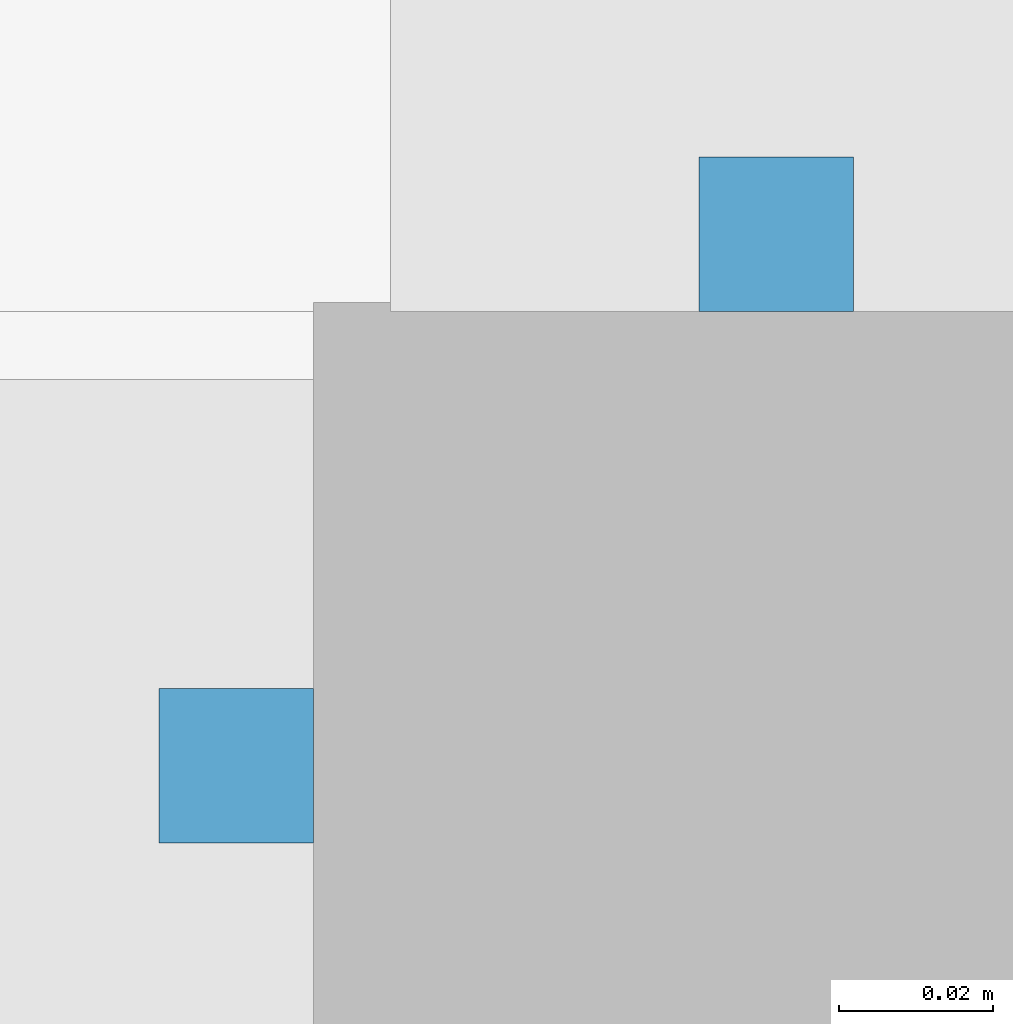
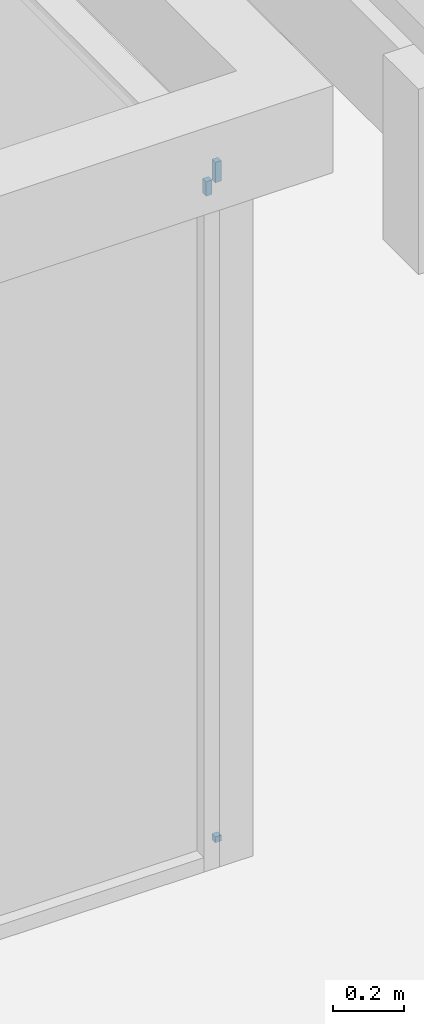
# One storey, part 112 of 153: 3 plates, 2 elements without a shape of their own.
"""IFC4 building model written with IfcOpenShell, lengths in metres."""

from ifc_helpers import new_model, entity, si_unit, converted_unit, derived_unit, direction, frame, origin, place, context, subcontext, project, spatial, indexed_curve, outline, extrude, source, transform, mapped, material, type_object, type_shapes, element, aggregate, save


model = new_model("IFC4")

# Units and contexts
model_context = context("Model", 3, precision=1e-05, world=origin(), true_north=direction((6.123031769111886e-17, 1.0)))
body_context = subcontext(model_context, "Body", "Model", "MODEL_VIEW")
ifc_project = project(units=[si_unit("LENGTHUNIT", "METRE"), si_unit("AREAUNIT", "SQUARE_METRE"), si_unit("VOLUMEUNIT", "CUBIC_METRE"), converted_unit("PLANEANGLEUNIT", "DEGREE", entity("IfcRatioMeasure", 0.017453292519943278), si_unit("PLANEANGLEUNIT", "RADIAN"), dimensions=[0, 0, 0, 0, 0, 0, 0]), si_unit("MASSUNIT", "GRAM", prefix="KILO"), derived_unit("MASSDENSITYUNIT", [(si_unit("MASSUNIT", "GRAM", prefix="KILO"), 1), (si_unit("LENGTHUNIT", "METRE"), -3)]), derived_unit("MOMENTOFINERTIAUNIT", [(si_unit("LENGTHUNIT", "METRE"), 4)]), si_unit("TIMEUNIT", "SECOND"), si_unit("FREQUENCYUNIT", "HERTZ"), si_unit("THERMODYNAMICTEMPERATUREUNIT", "DEGREE_CELSIUS"), derived_unit("THERMALTRANSMITTANCEUNIT", [(si_unit("MASSUNIT", "GRAM", prefix="KILO"), 1), (si_unit("THERMODYNAMICTEMPERATUREUNIT", "KELVIN"), -1), (si_unit("TIMEUNIT", "SECOND"), -3)]), derived_unit("VOLUMETRICFLOWRATEUNIT", [(si_unit("LENGTHUNIT", "METRE"), 3), (si_unit("TIMEUNIT", "SECOND"), -1)]), derived_unit("MASSFLOWRATEUNIT", [(si_unit("MASSUNIT", "GRAM", prefix="KILO"), 1), (si_unit("TIMEUNIT", "SECOND"), -1)]), derived_unit("ROTATIONALFREQUENCYUNIT", [(si_unit("TIMEUNIT", "SECOND"), -1)]), si_unit("ELECTRICCURRENTUNIT", "AMPERE"), si_unit("ELECTRICVOLTAGEUNIT", "VOLT"), si_unit("POWERUNIT", "WATT"), si_unit("FORCEUNIT", "NEWTON", prefix="KILO"), si_unit("ILLUMINANCEUNIT", "LUX"), si_unit("LUMINOUSFLUXUNIT", "LUMEN"), si_unit("LUMINOUSINTENSITYUNIT", "CANDELA"), derived_unit("USERDEFINED", [(si_unit("MASSUNIT", "GRAM", prefix="KILO"), -1), (si_unit("LENGTHUNIT", "METRE"), -2), (si_unit("TIMEUNIT", "SECOND"), 3), (si_unit("LUMINOUSFLUXUNIT", "LUMEN"), 1)]), derived_unit("SOUNDPOWERUNIT", [(si_unit("MASSUNIT", "GRAM", prefix="KILO"), 1), (si_unit("LENGTHUNIT", "METRE"), 2), (si_unit("TIMEUNIT", "SECOND"), -3)]), derived_unit("SOUNDPRESSUREUNIT", [(si_unit("MASSUNIT", "GRAM", prefix="KILO"), 1), (si_unit("LENGTHUNIT", "METRE"), -1), (si_unit("TIMEUNIT", "SECOND"), -2)]), derived_unit("LINEARVELOCITYUNIT", [(si_unit("LENGTHUNIT", "METRE"), 1), (si_unit("TIMEUNIT", "SECOND"), -1)]), si_unit("PRESSUREUNIT", "PASCAL"), derived_unit("USERDEFINED", [(si_unit("LENGTHUNIT", "METRE"), -2), (si_unit("MASSUNIT", "GRAM", prefix="KILO"), 1), (si_unit("TIMEUNIT", "SECOND"), -2)]), derived_unit("LINEARFORCEUNIT", [(si_unit("MASSUNIT", "GRAM", prefix="KILO"), 1), (si_unit("LENGTHUNIT", "METRE"), 1), (si_unit("TIMEUNIT", "SECOND"), -2), (si_unit("LENGTHUNIT", "METRE"), -1)]), derived_unit("PLANARFORCEUNIT", [(si_unit("MASSUNIT", "GRAM", prefix="KILO"), 1), (si_unit("LENGTHUNIT", "METRE"), 1), (si_unit("TIMEUNIT", "SECOND"), -2), (si_unit("LENGTHUNIT", "METRE"), -2)])], contexts=[model_context])

# Site, building, storey
site_placement = place(None, origin())
site = spatial("IfcSite", under=ifc_project, at=site_placement, Name="Superficie", CompositionType="ELEMENT")
building_placement = place(site_placement, origin())
building = spatial("IfcBuilding", under=site, at=building_placement, CompositionType="ELEMENT")
storey_placement = place(building_placement, frame((0.0, 0.0, 3.5999999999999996)))
storey = spatial("IfcBuildingStorey", under=building, at=storey_placement, Name="Nivel 1", CompositionType="ELEMENT", Elevation=3.5999999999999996)

# Curtain wall, plates
curtain_wall_type = type_object("IfcCurtainWallType", Name="Muro cortina:Muro cortina - simple", PredefinedType="NOTDEFINED")
curtain_wall_1_placement = place(storey_placement, frame((0.0, 0.0, -3.5999999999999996)))
curtain_wall_1 = element("IfcCurtainWall", 1, at=curtain_wall_1_placement, inside=storey, type_object=curtain_wall_type, Name="Muro cortina:Muro cortina - simple", ObjectType="Muro cortina:Muro cortina - simple", PredefinedType="NOTDEFINED")
ifc_material = material(Name="Cristal", Category="Vidrio")
plate_type_1 = type_object("IfcPlateType", Name="Panel de sistema:Acristalado", PredefinedType="CURTAIN_PANEL", material=ifc_material)
shared_shape_1 = source(origin(), body_context, "Body", "SweptSolid", [
    extrude(outline(indexed_curve([(-0.01, -0.009999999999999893), (0.01, -0.009999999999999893), (0.01, 0.009999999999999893), (-0.01, 0.009999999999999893), (-0.01, -0.009999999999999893)], self_intersect=False)), frame((0.0, 0.0, 0.0), z_axis=(0.0, 0.0, 1.0), x_axis=(0.0, 1.0, 0.0)), (0.0, 0.0, 1.0), 0.02000000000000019),
])
type_shapes(plate_type_1, [shared_shape_1])
plate_1_placement = place(curtain_wall_1_placement, frame((-5.5182009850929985, -0.8947671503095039, 3.5999999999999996), z_axis=(0.0, 0.0, 1.0), x_axis=(0.0, 1.0, 0.0)))
plate_1 = element("IfcPlate", 2, at=plate_1_placement, type_object=plate_type_1, material=ifc_material, Name="Panel de sistema:Acristalado", ObjectType="Panel de sistema:Acristalado", PredefinedType="CURTAIN_PANEL", context=body_context, shape_type="MappedRepresentation", body=[
    mapped(shared_shape_1, transform((0.0, 0.0, 0.0), scale=1.0)),
])
plate_type_2 = type_object("IfcPlateType", Name="Panel de sistema:Acristalado", PredefinedType="CURTAIN_PANEL", material=ifc_material)
shared_shape_2 = source(origin(), body_context, "Body", "SweptSolid", [
    extrude(outline(indexed_curve([(-0.01, -0.009999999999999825), (0.01, -0.009999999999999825), (0.01, 0.009999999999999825), (-0.01, 0.009999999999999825), (-0.01, -0.009999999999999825)], self_intersect=False)), frame((0.0, 0.0, 0.0), z_axis=(0.0, 0.0, 1.0), x_axis=(0.0, 1.0, 0.0)), (0.0, 0.0, 1.0), 0.07000000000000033),
])
type_shapes(plate_type_2, [shared_shape_2])
plate_2_placement = place(curtain_wall_1_placement, frame((-5.5182009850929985, -0.894767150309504, 5.879999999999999), z_axis=(0.0, 0.0, 1.0), x_axis=(0.0, 1.0, 0.0)))
plate_2 = element("IfcPlate", 3, at=plate_2_placement, type_object=plate_type_2, material=ifc_material, Name="Panel de sistema:Acristalado", ObjectType="Panel de sistema:Acristalado", PredefinedType="CURTAIN_PANEL", context=body_context, shape_type="MappedRepresentation", body=[
    mapped(shared_shape_2, transform((0.0, 0.0, 0.0), scale=1.0)),
])
aggregate(curtain_wall_1, [plate_1, plate_2])

# Curtain wall, plate
curtain_wall_2_placement = place(storey_placement, frame((0.0, 0.0, -3.5999999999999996)))
curtain_wall_2 = element("IfcCurtainWall", 4, at=curtain_wall_2_placement, inside=storey, type_object=curtain_wall_type, Name="Muro cortina:Muro cortina - simple", ObjectType="Muro cortina:Muro cortina - simple", PredefinedType="NOTDEFINED")
plate_type_3 = type_object("IfcPlateType", Name="Panel de sistema:Acristalado", PredefinedType="CURTAIN_PANEL", material=ifc_material)
shared_shape_3 = source(origin(), body_context, "Body", "SweptSolid", [
    extrude(outline(indexed_curve([(-0.01, -0.009999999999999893), (0.01, -0.009999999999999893), (0.01, 0.009999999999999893), (-0.01, 0.009999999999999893), (-0.01, -0.009999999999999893)], self_intersect=False)), frame((0.0, 0.0, 0.0), z_axis=(0.0, 0.0, 1.0), x_axis=(0.0, 1.0, 0.0)), (0.0, 0.0, 1.0), 0.04999999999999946),
])
type_shapes(plate_type_3, [shared_shape_3])
plate_3_placement = place(curtain_wall_2_placement, frame((-5.588200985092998, -0.9636067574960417, 5.9), z_axis=(0.0, 0.0, 1.0), x_axis=(-1.0, 0.0, 0.0)))
plate_3 = element("IfcPlate", 5, at=plate_3_placement, type_object=plate_type_3, material=ifc_material, Name="Panel de sistema:Acristalado", ObjectType="Panel de sistema:Acristalado", PredefinedType="CURTAIN_PANEL", context=body_context, shape_type="MappedRepresentation", body=[
    mapped(shared_shape_3, transform((0.0, 0.0, 0.0), scale=1.0)),
])
aggregate(curtain_wall_2, [plate_3])

save(model, "model.ifc")
